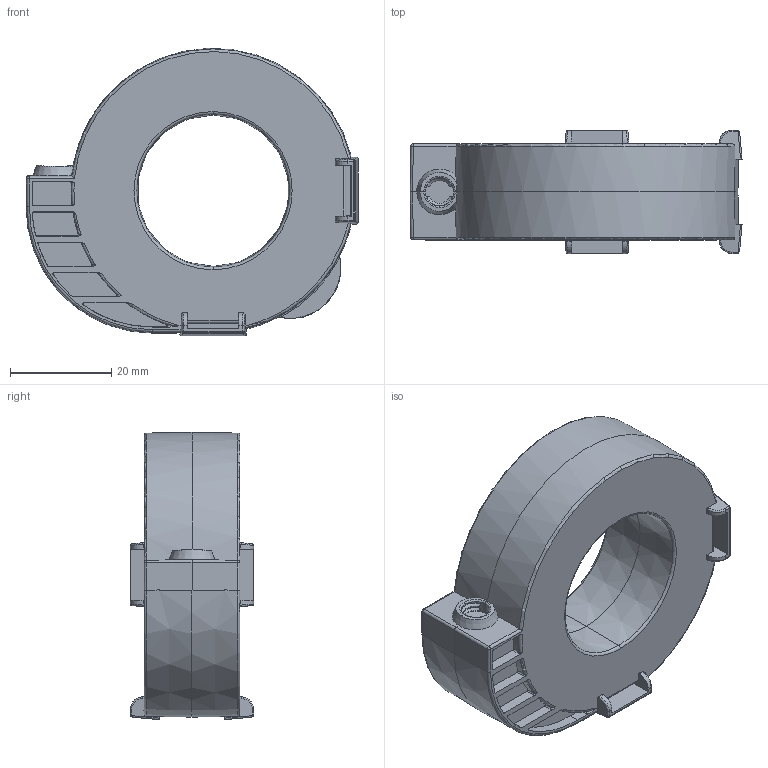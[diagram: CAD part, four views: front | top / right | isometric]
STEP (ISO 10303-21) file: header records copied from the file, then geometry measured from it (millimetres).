
FILE_DESCRIPTION((''),'2;1');
FILE_NAME('0000002547_ASM','2024-09-18T14:23:45',('lesquembri'),(''),'CREO PARAMETRIC BY PTC INC, 2018260','CREO PARAMETRIC BY PTC INC, 2018260','');
FILE_SCHEMA(('AUTOMOTIVE_DESIGN { 1 0 10303 214 1 1 1 1 }'));
Length unit declared in the file: millimetre
Products named in the file (1): 0000002547_ASM
Bounding box: 65.74 x 24.4 x 56.88 mm (x, y, z)
Volume: 39136.5 mm3; surface area: 11106.1 mm2
Topology: 1 solids, 2 shells, 347 faces, 900 edges, 558 vertices
Faces by surface type: plane 131, cylinder 102, cone 42, bspline 38, torus 24, sphere 10
Entity records: 16802 total; most frequent: CARTESIAN_POINT 7163, ORIENTED_EDGE 1780, COLOUR_RGB 1576, DIRECTION 1409, EDGE_CURVE 890, VERTEX_POINT 558, AXIS2_PLACEMENT_3D 521, VECTOR 367
